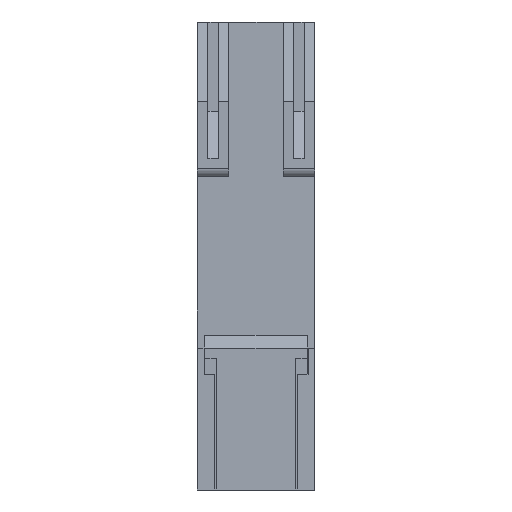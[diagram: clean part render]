
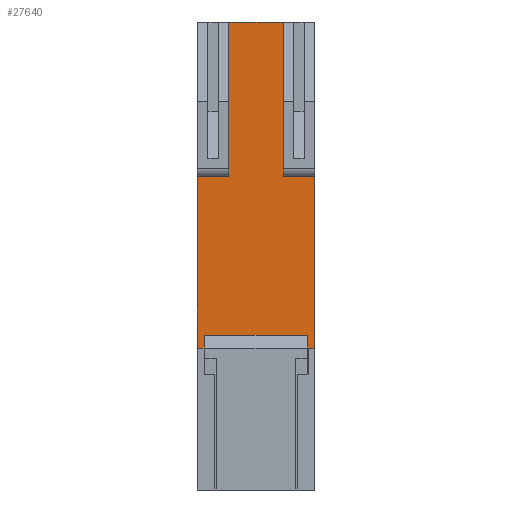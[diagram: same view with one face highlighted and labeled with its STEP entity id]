
A CAD part, left-side view. The second image highlights one B-rep face of the part: STEP entity #27640.
In plain terms, the highlighted planar face has unit normal (-1, 0, 0) as drawn and (0, 0, -1) by its records, which use the part's own axes.
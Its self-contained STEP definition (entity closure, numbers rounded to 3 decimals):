
#2827=FACE_OUTER_BOUND('',#4405,.T.);
#4405=EDGE_LOOP('',(#20725,#20726,#20727,#20728,#20729,#20730,#20731,#20732,
#20733,#20734,#20735,#20736,#20737,#20738,#20739,#20740));
#6780=LINE('',#41294,#9655);
#6788=LINE('',#41310,#9663);
#6803=LINE('',#41339,#9678);
#6836=LINE('',#41410,#9711);
#6886=LINE('',#41527,#9761);
#6888=LINE('',#41531,#9763);
#6890=LINE('',#41534,#9765);
#6891=LINE('',#41537,#9766);
#6892=LINE('',#41539,#9767);
#6893=LINE('',#41541,#9768);
#6894=LINE('',#41543,#9769);
#6895=LINE('',#41544,#9770);
#6896=LINE('',#41546,#9771);
#6897=LINE('',#41547,#9772);
#6898=LINE('',#41549,#9773);
#6899=LINE('',#41550,#9774);
#9655=VECTOR('',#33942,10.);
#9663=VECTOR('',#33950,10.);
#9678=VECTOR('',#33977,10.);
#9711=VECTOR('',#34040,10.);
#9761=VECTOR('',#34114,10.);
#9763=VECTOR('',#34118,10.);
#9765=VECTOR('',#34122,10.);
#9766=VECTOR('',#34125,10.);
#9767=VECTOR('',#34126,10.);
#9768=VECTOR('',#34127,10.);
#9769=VECTOR('',#34128,10.);
#9770=VECTOR('',#34129,10.);
#9771=VECTOR('',#34130,10.);
#9772=VECTOR('',#34131,10.);
#9773=VECTOR('',#34132,10.);
#9774=VECTOR('',#34133,10.);
#12384=VERTEX_POINT('',#41291);
#12385=VERTEX_POINT('',#41293);
#12392=VERTEX_POINT('',#41307);
#12393=VERTEX_POINT('',#41309);
#12400=VERTEX_POINT('',#41336);
#12401=VERTEX_POINT('',#41338);
#12423=VERTEX_POINT('',#41407);
#12424=VERTEX_POINT('',#41409);
#12479=VERTEX_POINT('',#41526);
#12480=VERTEX_POINT('',#41530);
#12481=VERTEX_POINT('',#41536);
#12482=VERTEX_POINT('',#41538);
#12483=VERTEX_POINT('',#41540);
#12484=VERTEX_POINT('',#41542);
#12485=VERTEX_POINT('',#41545);
#12486=VERTEX_POINT('',#41548);
#15531=EDGE_CURVE('',#12384,#12385,#6780,.T.);
#15539=EDGE_CURVE('',#12392,#12393,#6788,.T.);
#15555=EDGE_CURVE('',#12401,#12400,#6803,.T.);
#15590=EDGE_CURVE('',#12423,#12424,#6836,.T.);
#15651=EDGE_CURVE('',#12479,#12385,#6886,.T.);
#15653=EDGE_CURVE('',#12480,#12479,#6888,.T.);
#15655=EDGE_CURVE('',#12392,#12480,#6890,.T.);
#15656=EDGE_CURVE('',#12384,#12481,#6891,.T.);
#15657=EDGE_CURVE('',#12481,#12482,#6892,.T.);
#15658=EDGE_CURVE('',#12482,#12483,#6893,.T.);
#15659=EDGE_CURVE('',#12483,#12484,#6894,.T.);
#15660=EDGE_CURVE('',#12484,#12424,#6895,.T.);
#15661=EDGE_CURVE('',#12423,#12485,#6896,.T.);
#15662=EDGE_CURVE('',#12485,#12401,#6897,.T.);
#15663=EDGE_CURVE('',#12400,#12486,#6898,.T.);
#15664=EDGE_CURVE('',#12393,#12486,#6899,.T.);
#20725=ORIENTED_EDGE('',*,*,#15655,.T.);
#20726=ORIENTED_EDGE('',*,*,#15653,.T.);
#20727=ORIENTED_EDGE('',*,*,#15651,.T.);
#20728=ORIENTED_EDGE('',*,*,#15531,.F.);
#20729=ORIENTED_EDGE('',*,*,#15656,.T.);
#20730=ORIENTED_EDGE('',*,*,#15657,.T.);
#20731=ORIENTED_EDGE('',*,*,#15658,.T.);
#20732=ORIENTED_EDGE('',*,*,#15659,.T.);
#20733=ORIENTED_EDGE('',*,*,#15660,.T.);
#20734=ORIENTED_EDGE('',*,*,#15590,.F.);
#20735=ORIENTED_EDGE('',*,*,#15661,.T.);
#20736=ORIENTED_EDGE('',*,*,#15662,.T.);
#20737=ORIENTED_EDGE('',*,*,#15555,.T.);
#20738=ORIENTED_EDGE('',*,*,#15663,.T.);
#20739=ORIENTED_EDGE('',*,*,#15664,.F.);
#20740=ORIENTED_EDGE('',*,*,#15539,.F.);
#26417=PLANE('',#29733);
#27640=ADVANCED_FACE('',(#2827),#26417,.F.);
#29733=AXIS2_PLACEMENT_3D('',#41535,#34123,#34124);
#33942=DIRECTION('',(1.,0.,0.));
#33950=DIRECTION('',(1.,0.,0.));
#33977=DIRECTION('',(0.,-1.,0.));
#34040=DIRECTION('',(-1.,0.,0.));
#34114=DIRECTION('',(0.,-1.,0.));
#34118=DIRECTION('',(-1.,0.,0.));
#34122=DIRECTION('',(0.,1.,0.));
#34123=DIRECTION('center_axis',(0.,0.,1.));
#34124=DIRECTION('ref_axis',(1.,0.,0.));
#34125=DIRECTION('',(0.,1.,0.));
#34126=DIRECTION('',(-1.,0.,0.));
#34127=DIRECTION('',(0.,1.,0.));
#34128=DIRECTION('',(1.,0.,0.));
#34129=DIRECTION('',(0.,1.,0.));
#34130=DIRECTION('',(0.,-1.,0.));
#34131=DIRECTION('',(1.,0.,0.));
#34132=DIRECTION('',(-1.,0.,0.));
#34133=DIRECTION('',(0.,1.,0.));
#41291=CARTESIAN_POINT('',(-10.,-45.,0.));
#41293=CARTESIAN_POINT('',(-4.,-45.,0.));
#41294=CARTESIAN_POINT('',(-10.625,-45.,0.));
#41307=CARTESIAN_POINT('',(4.,-45.,0.));
#41309=CARTESIAN_POINT('',(10.,-45.,0.));
#41310=CARTESIAN_POINT('',(-10.625,-45.,0.));
#41336=CARTESIAN_POINT('',(11.25,-17.7,0.));
#41338=CARTESIAN_POINT('',(11.25,18.3,0.));
#41339=CARTESIAN_POINT('',(11.25,45.,0.));
#41407=CARTESIAN_POINT('',(5.25,45.,0.));
#41409=CARTESIAN_POINT('',(-5.25,45.,0.));
#41410=CARTESIAN_POINT('',(5.625,45.,0.));
#41526=CARTESIAN_POINT('',(-4.,-43.,0.));
#41527=CARTESIAN_POINT('',(-4.,-22.217,0.));
#41530=CARTESIAN_POINT('',(4.,-43.,0.));
#41531=CARTESIAN_POINT('',(0.,-43.,0.));
#41534=CARTESIAN_POINT('',(4.,-22.217,0.));
#41535=CARTESIAN_POINT('Origin',(0.,0.,0.));
#41536=CARTESIAN_POINT('',(-10.,-17.7,0.));
#41537=CARTESIAN_POINT('',(-10.,-45.,0.));
#41538=CARTESIAN_POINT('',(-11.25,-17.7,0.));
#41539=CARTESIAN_POINT('',(0.,-17.7,0.));
#41540=CARTESIAN_POINT('',(-11.25,18.3,0.));
#41541=CARTESIAN_POINT('',(-11.25,-45.,0.));
#41542=CARTESIAN_POINT('',(-5.25,18.3,0.));
#41543=CARTESIAN_POINT('',(0.,18.3,0.));
#41544=CARTESIAN_POINT('',(-5.25,35.,0.));
#41545=CARTESIAN_POINT('',(5.25,18.3,0.));
#41546=CARTESIAN_POINT('',(5.25,15.,0.));
#41547=CARTESIAN_POINT('',(0.,18.3,0.));
#41548=CARTESIAN_POINT('',(10.,-17.7,0.));
#41549=CARTESIAN_POINT('',(0.,-17.7,0.));
#41550=CARTESIAN_POINT('',(10.,-45.,0.));
